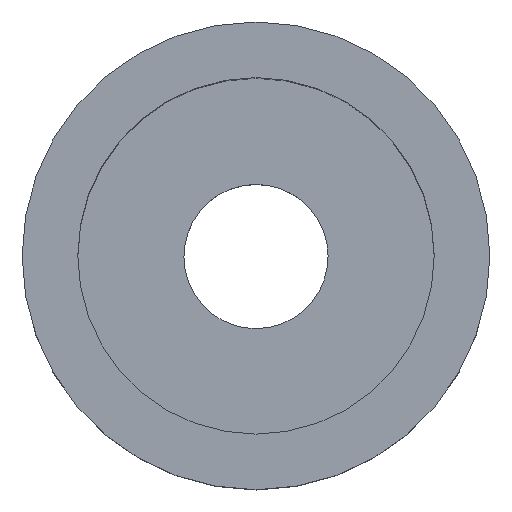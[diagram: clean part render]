
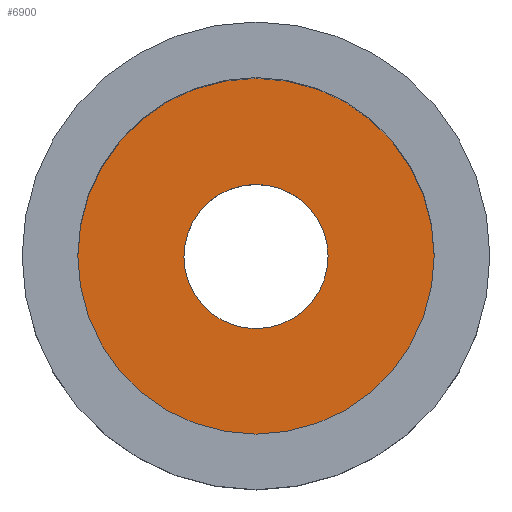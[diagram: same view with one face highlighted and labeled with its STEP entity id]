
A CAD part, top view. The second image highlights one B-rep face of the part: STEP entity #6900.
In plain terms, the highlighted planar face has unit normal (0, 0, 1) as drawn and (0, -1, 0) by its records, which use the part's own axes.
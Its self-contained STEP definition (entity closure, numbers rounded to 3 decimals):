
#6100=CARTESIAN_POINT('',(10.548,-8.238,
-5.499));
#6110=VERTEX_POINT('',#6100);
#6190=CARTESIAN_POINT('',(10.302,-8.238,
8.499));
#6200=VERTEX_POINT('',#6190);
#6230=CARTESIAN_POINT('',(10.425,-8.238,1.5));
#6240=DIRECTION('',(0.,1.,0.));
#6250=DIRECTION('',(0.018,0.,
-1.));
#6260=AXIS2_PLACEMENT_3D('',#6230,#6240,#6250);
#6270=CIRCLE('',#6260,7.);
#6280=EDGE_CURVE('',#6200,#6110,#6270,.T.);
#6420=CARTESIAN_POINT('',(-6.875,-8.238,
1.5));
#6430=VERTEX_POINT('',#6420);
#6480=CARTESIAN_POINT('',(10.425,-8.238,1.5));
#6490=DIRECTION('',(0.,-1.,0.));
#6500=DIRECTION('',(1.,0.,0.));
#6510=AXIS2_PLACEMENT_3D('',#6480,#6490,#6500);
#6520=CIRCLE('',#6510,17.3);
#6530=CARTESIAN_POINT('',(27.725,-8.238,1.5));
#6540=VERTEX_POINT('',#6530);
#6550=EDGE_CURVE('',#6430,#6540,#6520,.T.);
#6750=CARTESIAN_POINT('',(-10.875,-8.238,1.5));
#6760=DIRECTION('',(0.,-1.,0.));
#6770=DIRECTION('',(1.,0.,0.));
#6780=AXIS2_PLACEMENT_3D('',#6750,#6760,#6770);
#6790=PLANE('',#6780);
#6800=EDGE_CURVE('',#6110,#6200,#6270,.T.);
#6810=ORIENTED_EDGE('',*,*,#6800,.T.);
#6820=ORIENTED_EDGE('',*,*,#6280,.T.);
#6830=EDGE_LOOP('',(#6820,#6810));
#6840=FACE_BOUND('',#6830,.T.);
#6850=EDGE_CURVE('',#6540,#6430,#6520,.T.);
#6860=ORIENTED_EDGE('',*,*,#6850,.T.);
#6870=ORIENTED_EDGE('',*,*,#6550,.T.);
#6880=EDGE_LOOP('',(#6870,#6860));
#6890=FACE_OUTER_BOUND('',#6880,.T.);
#6900=ADVANCED_FACE('',(#6840,#6890),#6790,.T.);
